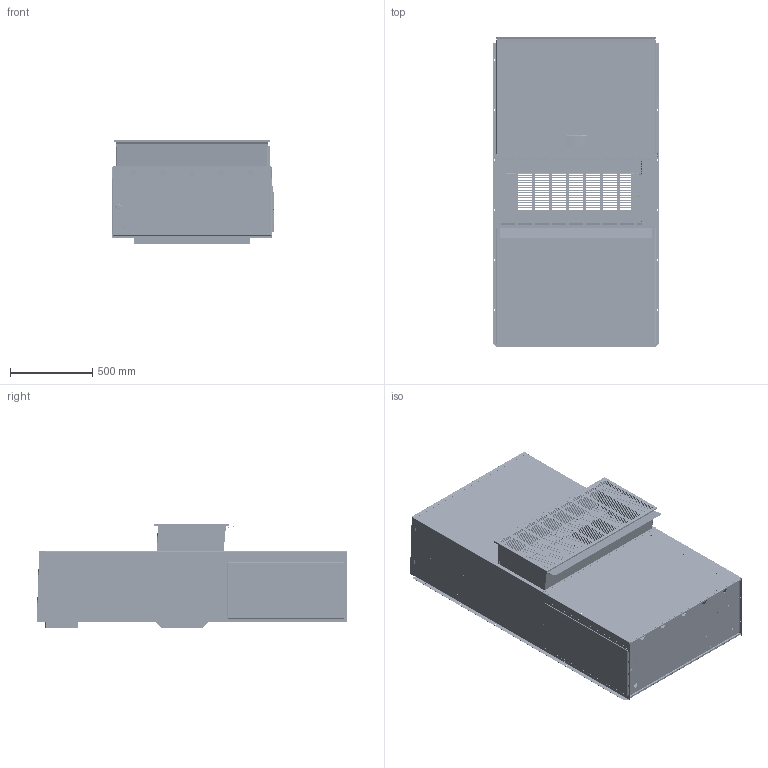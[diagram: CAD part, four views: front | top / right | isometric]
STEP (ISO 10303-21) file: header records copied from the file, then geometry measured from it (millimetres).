
FILE_DESCRIPTION (( 'STEP AP203' ), '1' );
FILE_NAME ('STEP_800_7.STEP', '2016-06-21T20:44:24', ( '' ), ( '' ), 'SwSTEP 2.0', 'SolidWorks 2016', '' );
FILE_SCHEMA (( 'CONFIG_CONTROL_DESIGN' ));
Products named in the file (1): STEP_800_7
Bounding box: 1015.56 x 1893.82 x 635.57 mm (x, y, z)
Volume: 7286727.8 mm3; surface area: 16380295.8 mm2
Topology: 85 solids, 87 shells, 11535 faces, 30223 edges, 19028 vertices
Faces by surface type: plane 5217, cylinder 3072, bspline 2794, cone 203, torus 164, sphere 85
Entity records: 475692 total; most frequent: CARTESIAN_POINT 214437, ORIENTED_EDGE 60328, DIRECTION 44549, EDGE_CURVE 30164, VERTEX_POINT 19020, VECTOR 16575, LINE 16575, AXIS2_PLACEMENT_3D 13987
